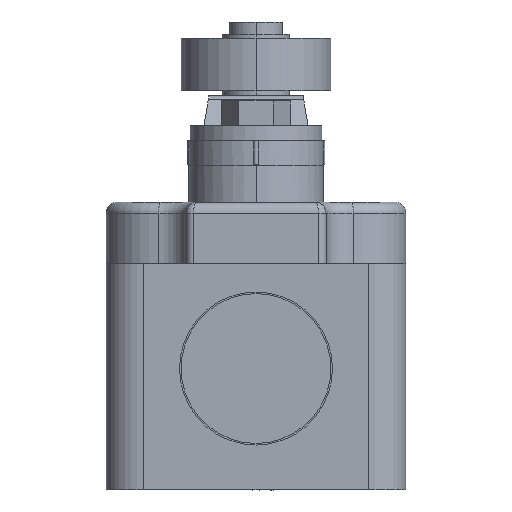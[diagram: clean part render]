
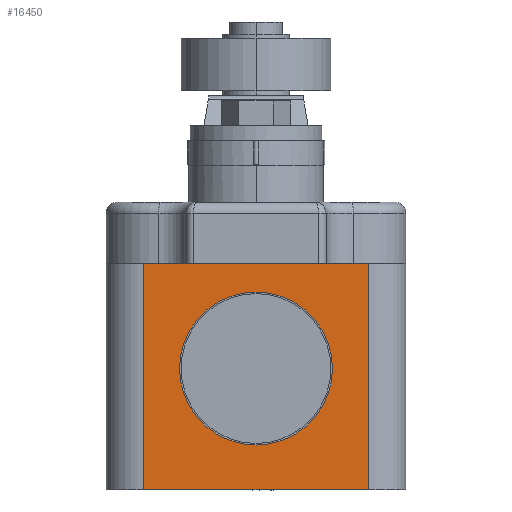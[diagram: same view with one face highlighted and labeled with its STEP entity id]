
A CAD part, front view. The second image highlights one B-rep face of the part: STEP entity #16450.
In plain terms, the highlighted planar face has unit normal (0, -1, 0).
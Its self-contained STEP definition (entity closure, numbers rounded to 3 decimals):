
#296 = CARTESIAN_POINT ( 'NONE',  ( 0., -66.3, -10.2 ) ) ;
#297 = DIRECTION ( 'NONE',  ( 0., 0., -1. ) ) ;
#298 = DIRECTION ( 'NONE',  ( 0., -1., 0. ) ) ;
#299 = AXIS2_PLACEMENT_3D ( 'NONE', #306, #298, #297 ) ;
#300 = CIRCLE ( 'NONE', #299, 10.2 ) ;
#306 = CARTESIAN_POINT ( 'NONE',  ( 0., -66.3, 0. ) ) ;
#398 = CARTESIAN_POINT ( 'NONE',  ( 0., -66.3, 10.2 ) ) ;
#1130 = LINE ( 'NONE', #1192, #1191 ) ;
#1131 = CARTESIAN_POINT ( 'NONE',  ( 15., -66.3, 14. ) ) ;
#1183 = DIRECTION ( 'NONE',  ( 0., 0., -1. ) ) ;
#1184 = DIRECTION ( 'NONE',  ( 0., -1., 0. ) ) ;
#1185 = CARTESIAN_POINT ( 'NONE',  ( 15., -66.3, -16.2 ) ) ;
#1186 = AXIS2_PLACEMENT_3D ( 'NONE', #1185, #1184, #1183 ) ;
#1187 = PLANE ( 'NONE',  #1186 ) ;
#1188 = FACE_OUTER_BOUND ( 'NONE', #16511, .T. ) ;
#1189 = FACE_BOUND ( 'NONE', #16451, .T. ) ;
#1190 = DIRECTION ( 'NONE',  ( 0., 0., 1. ) ) ;
#1191 = VECTOR ( 'NONE', #1190, 1000. ) ;
#1192 = CARTESIAN_POINT ( 'NONE',  ( 15., -66.3, -16.2 ) ) ;
#1305 = DIRECTION ( 'NONE',  ( 0., 0., 1. ) ) ;
#1306 = VECTOR ( 'NONE', #1305, 1000. ) ;
#1307 = CARTESIAN_POINT ( 'NONE',  ( -15., -66.3, -16.2 ) ) ;
#1308 = LINE ( 'NONE', #1307, #1306 ) ;
#1309 = CARTESIAN_POINT ( 'NONE',  ( -15., -66.3, 14. ) ) ;
#1310 = DIRECTION ( 'NONE',  ( 1., 0., 0. ) ) ;
#1311 = VECTOR ( 'NONE', #1310, 1000. ) ;
#1312 = CARTESIAN_POINT ( 'NONE',  ( 15., -66.3, 14. ) ) ;
#1313 = LINE ( 'NONE', #1312, #1311 ) ;
#1314 = DIRECTION ( 'NONE',  ( 0., 0., -1. ) ) ;
#1315 = DIRECTION ( 'NONE',  ( 0., -1., 0. ) ) ;
#1316 = CARTESIAN_POINT ( 'NONE',  ( 0., -66.3, 0. ) ) ;
#1317 = AXIS2_PLACEMENT_3D ( 'NONE', #1316, #1315, #1314 ) ;
#1318 = CIRCLE ( 'NONE', #1317, 10.2 ) ;
#11978 = VERTEX_POINT ( 'NONE', #25671 ) ;
#11983 = EDGE_CURVE ( 'NONE', #11984, #11978, #25727, .T. ) ;
#11984 = VERTEX_POINT ( 'NONE', #25721 ) ;
#16012 = EDGE_CURVE ( 'NONE', #16070, #16013, #300, .T. ) ;
#16013 = VERTEX_POINT ( 'NONE', #296 ) ;
#16070 = VERTEX_POINT ( 'NONE', #398 ) ;
#16446 = VERTEX_POINT ( 'NONE', #1131 ) ;
#16448 = EDGE_CURVE ( 'NONE', #11978, #16446, #1130, .T. ) ;
#16450 = ADVANCED_FACE ( 'NONE', ( #1189, #1188 ), #1187, .T. ) ;
#16451 = EDGE_LOOP ( 'NONE', ( #16508, #16510 ) ) ;
#16508 = ORIENTED_EDGE ( 'NONE', *, *, #16509, .F. ) ;
#16509 = EDGE_CURVE ( 'NONE', #16013, #16070, #1318, .T. ) ;
#16510 = ORIENTED_EDGE ( 'NONE', *, *, #16012, .F. ) ;
#16511 = EDGE_LOOP ( 'NONE', ( #16512, #16513, #16516, #16518 ) ) ;
#16512 = ORIENTED_EDGE ( 'NONE', *, *, #16448, .T. ) ;
#16513 = ORIENTED_EDGE ( 'NONE', *, *, #16514, .F. ) ;
#16514 = EDGE_CURVE ( 'NONE', #16515, #16446, #1313, .T. ) ;
#16515 = VERTEX_POINT ( 'NONE', #1309 ) ;
#16516 = ORIENTED_EDGE ( 'NONE', *, *, #16517, .F. ) ;
#16517 = EDGE_CURVE ( 'NONE', #11984, #16515, #1308, .T. ) ;
#16518 = ORIENTED_EDGE ( 'NONE', *, *, #11983, .T. ) ;
#25671 = CARTESIAN_POINT ( 'NONE',  ( 15., -66.3, -16.2 ) ) ;
#25721 = CARTESIAN_POINT ( 'NONE',  ( -15., -66.3, -16.2 ) ) ;
#25722 = DIRECTION ( 'NONE',  ( 1., 0., 0. ) ) ;
#25723 = VECTOR ( 'NONE', #25722, 1000. ) ;
#25724 = CARTESIAN_POINT ( 'NONE',  ( 15., -66.3, -16.2 ) ) ;
#25727 = LINE ( 'NONE', #25724, #25723 ) ;
